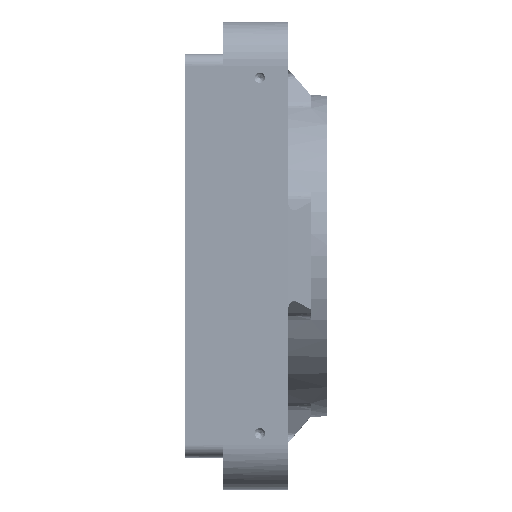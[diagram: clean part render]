
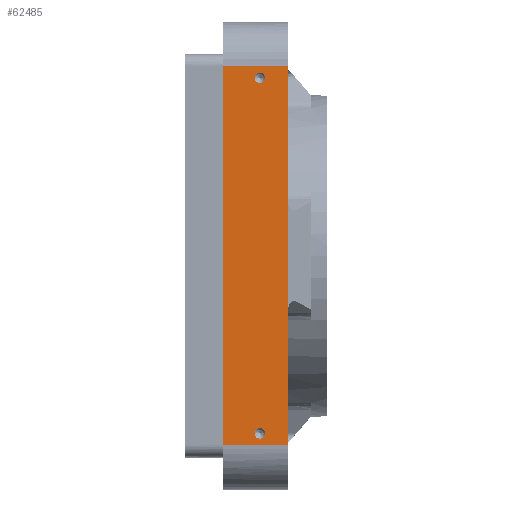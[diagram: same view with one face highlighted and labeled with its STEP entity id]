
A CAD part, top view. The second image highlights one B-rep face of the part: STEP entity #62485.
In plain terms, the highlighted free-form (B-spline) face has degree [1, 1] with [2, 2] control points.
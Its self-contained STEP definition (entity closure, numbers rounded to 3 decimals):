
#1163 = CARTESIAN_POINT ( 'NONE',  ( -58.7, -76.653, 102.5 ) ) ;
#1914 = CARTESIAN_POINT ( 'NONE',  ( -58.7, 79.347, 102.5 ) ) ;
#6946 =( BOUNDED_CURVE ( )  B_SPLINE_CURVE ( 3, ( #66308, #90172, #83778, #27587, #1163, #75318, #59924 ),
 .UNSPECIFIED., .F., .F. ) 
 B_SPLINE_CURVE_WITH_KNOTS ( ( 4, 3, 4 ),
 ( -3.142, -1.571, 0. ),
 .UNSPECIFIED. ) 
 CURVE ( )  GEOMETRIC_REPRESENTATION_ITEM ( )  RATIONAL_B_SPLINE_CURVE ( ( 1., 0.805, 0.805, 1., 0.805, 0.805, 1. ) ) 
 REPRESENTATION_ITEM ( '' )  );
#9870 = CARTESIAN_POINT ( 'NONE',  ( -58.7, 78., 102.5 ) ) ;
#11644 = EDGE_CURVE ( 'NONE', #67156, #77682, #81781, .T. ) ;
#14500 = CARTESIAN_POINT ( 'NONE',  ( -77., 83., 102.5 ) ) ;
#14594 = CARTESIAN_POINT ( 'NONE',  ( -77., 83., 102.5 ) ) ;
#15014 = CARTESIAN_POINT ( 'NONE',  ( -48.6, 83., 102.5 ) ) ;
#16104 = CARTESIAN_POINT ( 'NONE',  ( -48.6, 83., 102.5 ) ) ;
#16323 = ORIENTED_EDGE ( 'NONE', *, *, #72300, .T. ) ;
#16600 = CARTESIAN_POINT ( 'NONE',  ( -77., 83., 102.5 ) ) ;
#16809 = CARTESIAN_POINT ( 'NONE',  ( -77., -83., 102.5 ) ) ;
#19172 = VERTEX_POINT ( 'NONE', #29178 ) ;
#21888 = VERTEX_POINT ( 'NONE', #14594 ) ;
#23174 = B_SPLINE_CURVE_WITH_KNOTS ( 'NONE', 1,
 ( #15014, #14500 ),
 .UNSPECIFIED., .F., .F.,
 ( 2, 2 ),
 ( 0., 1. ),
 .UNSPECIFIED. ) ;
#23487 = CARTESIAN_POINT ( 'NONE',  ( -65.6, 75.7, 102.5 ) ) ;
#23817 = EDGE_LOOP ( 'NONE', ( #75414, #27791 ) ) ;
#24731 = FACE_BOUND ( 'NONE', #23817, .T. ) ;
#25048 = CARTESIAN_POINT ( 'NONE',  ( -77., -83., 102.5 ) ) ;
#27587 = CARTESIAN_POINT ( 'NONE',  ( -58.7, -78., 102.5 ) ) ;
#27791 = ORIENTED_EDGE ( 'NONE', *, *, #42991, .F. ) ;
#29178 = CARTESIAN_POINT ( 'NONE',  ( -48.6, 83., 102.5 ) ) ;
#30736 = CARTESIAN_POINT ( 'NONE',  ( -61., -75.7, 102.5 ) ) ;
#30917 = CARTESIAN_POINT ( 'NONE',  ( -61., 80.3, 102.5 ) ) ;
#31673 =( BOUNDED_CURVE ( )  B_SPLINE_CURVE ( 3, ( #89882, #104738, #48560, #9870, #1914, #80380, #80900 ),
 .UNSPECIFIED., .F., .F. ) 
 B_SPLINE_CURVE_WITH_KNOTS ( ( 4, 3, 4 ),
 ( -3.142, -1.571, 0. ),
 .UNSPECIFIED. ) 
 CURVE ( )  GEOMETRIC_REPRESENTATION_ITEM ( )  RATIONAL_B_SPLINE_CURVE ( ( 1., 0.805, 0.805, 1., 0.805, 0.805, 1. ) ) 
 REPRESENTATION_ITEM ( '' )  );
#34216 = CARTESIAN_POINT ( 'NONE',  ( -48.6, -83., 102.5 ) ) ;
#35814 = CARTESIAN_POINT ( 'NONE',  ( -61., -75.7, 102.5 ) ) ;
#36074 = EDGE_CURVE ( 'NONE', #43666, #42347, #96161, .T. ) ;
#37400 = EDGE_CURVE ( 'NONE', #94081, #47621, #31673, .T. ) ;
#38532 = B_SPLINE_CURVE_WITH_KNOTS ( 'NONE', 1,
 ( #88708, #16104 ),
 .UNSPECIFIED., .F., .F.,
 ( 2, 2 ),
 ( 0., 1. ),
 .UNSPECIFIED. ) ;
#39753 = CARTESIAN_POINT ( 'NONE',  ( -48.6, -83., 102.5 ) ) ;
#42347 = VERTEX_POINT ( 'NONE', #16809 ) ;
#42991 = EDGE_CURVE ( 'NONE', #77682, #67156, #6946, .T. ) ;
#43666 = VERTEX_POINT ( 'NONE', #84741 ) ;
#45393 = ORIENTED_EDGE ( 'NONE', *, *, #86183, .T. ) ;
#45636 = ORIENTED_EDGE ( 'NONE', *, *, #36074, .F. ) ;
#47621 = VERTEX_POINT ( 'NONE', #87000 ) ;
#48560 = CARTESIAN_POINT ( 'NONE',  ( -58.7, 76.653, 102.5 ) ) ;
#50591 = EDGE_LOOP ( 'NONE', ( #45636, #16323, #45393, #79936 ) ) ;
#52252 = CARTESIAN_POINT ( 'NONE',  ( -77., -83., 102.5 ) ) ;
#53657 = EDGE_CURVE ( 'NONE', #47621, #94081, #60131, .T. ) ;
#55832 = CARTESIAN_POINT ( 'NONE',  ( -65.6, 80.3, 102.5 ) ) ;
#59924 = CARTESIAN_POINT ( 'NONE',  ( -61., -75.7, 102.5 ) ) ;
#60131 =( BOUNDED_CURVE ( )  B_SPLINE_CURVE ( 3, ( #30917, #55832, #23487, #87145 ),
 .UNSPECIFIED., .F., .F. ) 
 B_SPLINE_CURVE_WITH_KNOTS ( ( 4, 4 ),
 ( -3.142, 0. ),
 .UNSPECIFIED. ) 
 CURVE ( )  GEOMETRIC_REPRESENTATION_ITEM ( )  RATIONAL_B_SPLINE_CURVE ( ( 1., 0.333, 0.333, 1. ) ) 
 REPRESENTATION_ITEM ( '' )  );
#62485 = ADVANCED_FACE ( 'NONE', ( #97344, #24731, #99425 ), #78881, .F. ) ;
#63089 = CARTESIAN_POINT ( 'NONE',  ( -65.6, -80.3, 102.5 ) ) ;
#66308 = CARTESIAN_POINT ( 'NONE',  ( -61., -80.3, 102.5 ) ) ;
#67079 = EDGE_LOOP ( 'NONE', ( #81324, #78723 ) ) ;
#67156 = VERTEX_POINT ( 'NONE', #35814 ) ;
#70303 = CARTESIAN_POINT ( 'NONE',  ( -61., 75.7, 102.5 ) ) ;
#71572 = CARTESIAN_POINT ( 'NONE',  ( -65.6, -75.7, 102.5 ) ) ;
#72300 = EDGE_CURVE ( 'NONE', #43666, #19172, #38532, .T. ) ;
#75318 = CARTESIAN_POINT ( 'NONE',  ( -59.653, -75.7, 102.5 ) ) ;
#75414 = ORIENTED_EDGE ( 'NONE', *, *, #11644, .F. ) ;
#77682 = VERTEX_POINT ( 'NONE', #77837 ) ;
#77837 = CARTESIAN_POINT ( 'NONE',  ( -61., -80.3, 102.5 ) ) ;
#78723 = ORIENTED_EDGE ( 'NONE', *, *, #37400, .F. ) ;
#78881 = B_SPLINE_SURFACE_WITH_KNOTS ( 'NONE', 1, 1, ( 
 ( #34216, #90967 ),
 ( #52252, #84570 ) ),
 .UNSPECIFIED., .F., .F., .F.,
 ( 2, 2 ),
 ( 2, 2 ),
 ( 0., 1. ),
 ( 0., 1. ),
 .UNSPECIFIED. ) ;
#79542 = CARTESIAN_POINT ( 'NONE',  ( -61., -80.3, 102.5 ) ) ;
#79696 = B_SPLINE_CURVE_WITH_KNOTS ( 'NONE', 1,
 ( #25048, #16600 ),
 .UNSPECIFIED., .F., .F.,
 ( 2, 2 ),
 ( 0., 1. ),
 .UNSPECIFIED. ) ;
#79936 = ORIENTED_EDGE ( 'NONE', *, *, #89329, .F. ) ;
#80380 = CARTESIAN_POINT ( 'NONE',  ( -59.653, 80.3, 102.5 ) ) ;
#80900 = CARTESIAN_POINT ( 'NONE',  ( -61., 80.3, 102.5 ) ) ;
#81324 = ORIENTED_EDGE ( 'NONE', *, *, #53657, .F. ) ;
#81781 =( BOUNDED_CURVE ( )  B_SPLINE_CURVE ( 3, ( #30736, #71572, #63089, #79542 ),
 .UNSPECIFIED., .F., .F. ) 
 B_SPLINE_CURVE_WITH_KNOTS ( ( 4, 4 ),
 ( -3.142, 0. ),
 .UNSPECIFIED. ) 
 CURVE ( )  GEOMETRIC_REPRESENTATION_ITEM ( )  RATIONAL_B_SPLINE_CURVE ( ( 1., 0.333, 0.333, 1. ) ) 
 REPRESENTATION_ITEM ( '' )  );
#83778 = CARTESIAN_POINT ( 'NONE',  ( -58.7, -79.347, 102.5 ) ) ;
#84570 = CARTESIAN_POINT ( 'NONE',  ( -77., 83., 102.5 ) ) ;
#84741 = CARTESIAN_POINT ( 'NONE',  ( -48.6, -83., 102.5 ) ) ;
#86183 = EDGE_CURVE ( 'NONE', #19172, #21888, #23174, .T. ) ;
#87000 = CARTESIAN_POINT ( 'NONE',  ( -61., 80.3, 102.5 ) ) ;
#87145 = CARTESIAN_POINT ( 'NONE',  ( -61., 75.7, 102.5 ) ) ;
#88708 = CARTESIAN_POINT ( 'NONE',  ( -48.6, -83., 102.5 ) ) ;
#89329 = EDGE_CURVE ( 'NONE', #42347, #21888, #79696, .T. ) ;
#89882 = CARTESIAN_POINT ( 'NONE',  ( -61., 75.7, 102.5 ) ) ;
#90172 = CARTESIAN_POINT ( 'NONE',  ( -59.653, -80.3, 102.5 ) ) ;
#90967 = CARTESIAN_POINT ( 'NONE',  ( -48.6, 83., 102.5 ) ) ;
#94081 = VERTEX_POINT ( 'NONE', #70303 ) ;
#96161 = B_SPLINE_CURVE_WITH_KNOTS ( 'NONE', 1,
 ( #39753, #104411 ),
 .UNSPECIFIED., .F., .F.,
 ( 2, 2 ),
 ( -1., 0. ),
 .UNSPECIFIED. ) ;
#97344 = FACE_BOUND ( 'NONE', #67079, .T. ) ;
#99425 = FACE_OUTER_BOUND ( 'NONE', #50591, .T. ) ;
#104411 = CARTESIAN_POINT ( 'NONE',  ( -77., -83., 102.5 ) ) ;
#104738 = CARTESIAN_POINT ( 'NONE',  ( -59.653, 75.7, 102.5 ) ) ;
